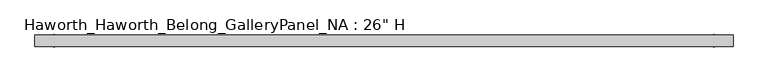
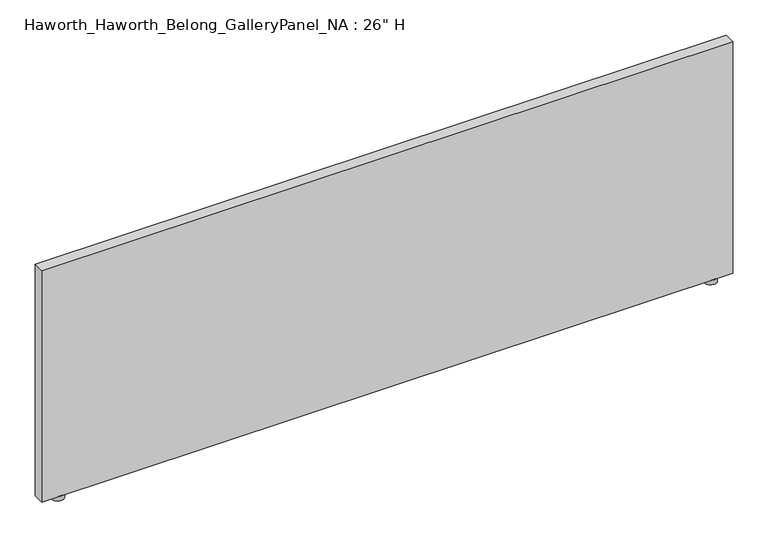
"""IFC4 building model written with IfcOpenShell, lengths in millimetres: furniture geometry."""

from ifc_helpers import new_model, si_unit, point, frame, frame_2d, origin, origin_with_axes, place, context, project, spatial, polyline, circle_curve, trimmed, segment, composite_curve, outline, extrude, source, transform, mapped, element, save


def furniture_bea0f818(model_context):
    return source(origin(), model_context, "Body", "SweptSolid", [
        extrude(outline(composite_curve([segment(trimmed(circle_curve(frame_2d((830.9354564, 0.0)), 16.0020275), [point((846.9374838, 0.0))], [point((814.9334289, 0.0))], False, "CARTESIAN"), True, "CONTINUOUS"), segment(trimmed(circle_curve(frame_2d((830.9354564, 0.0)), 16.0020275), [point((814.9334289, 0.0))], [point((846.9374838, 0.0))], False, "CARTESIAN"), True, "CONTINUOUS")], self_intersect=False)), origin_with_axes(), (0.0, 0.0, 1.0), 12.7),
        extrude(outline(composite_curve([segment(trimmed(circle_curve(frame_2d((-896.2645436, 0.0)), 16.0020275), [point((-912.2665711, 0.0))], [point((-880.2625162, 0.0))], False, "CARTESIAN"), True, "CONTINUOUS"), segment(trimmed(circle_curve(frame_2d((-896.2645436, 0.0)), 16.0020275), [point((-880.2625162, 0.0))], [point((-912.2665711, 0.0))], False, "CARTESIAN"), True, "CONTINUOUS")], self_intersect=False)), origin_with_axes(), (0.0, 0.0, 1.0), 12.7),
        extrude(outline(polyline([(881.7354564, 14.9859726), (881.7354564, -14.9860287), (-947.0645436, -14.9860287), (-947.0645436, 14.9859726), (881.7354564, 14.9859726)])), frame((0.0, 0.0, 12.7), z_axis=(0.0, 0.0, 1.0), x_axis=(1.0, 0.0, 0.0)), (0.0, 0.0, 1.0), 647.7),
    ])


if __name__ == "__main__":
    model = new_model("IFC4")
    model_context = context("Model", 3, world=origin())
    ifc_project = project(units=[si_unit("LENGTHUNIT", "METRE", prefix="MILLI")], contexts=[model_context])
    site = spatial("IfcSite", under=ifc_project)
    building = spatial("IfcBuilding", under=site)
    placement = place(None, origin())
    furniture_shape = furniture_bea0f818(model_context)
    element("IfcFurniture", 1, ObjectType="Haworth_Haworth_Belong_GalleryPanel_NA : 26\" H", at=placement, inside=building, context=model_context, shape_type="MappedRepresentation", body=[
        mapped(furniture_shape, transform((0.0, 0.0, 0.0), x_axis=(1.0, 0.0, 0.0), y_axis=(0.0, 1.0, 0.0), z_axis=(0.0, 0.0, 1.0))),
    ])
    save(model, "model.ifc")
